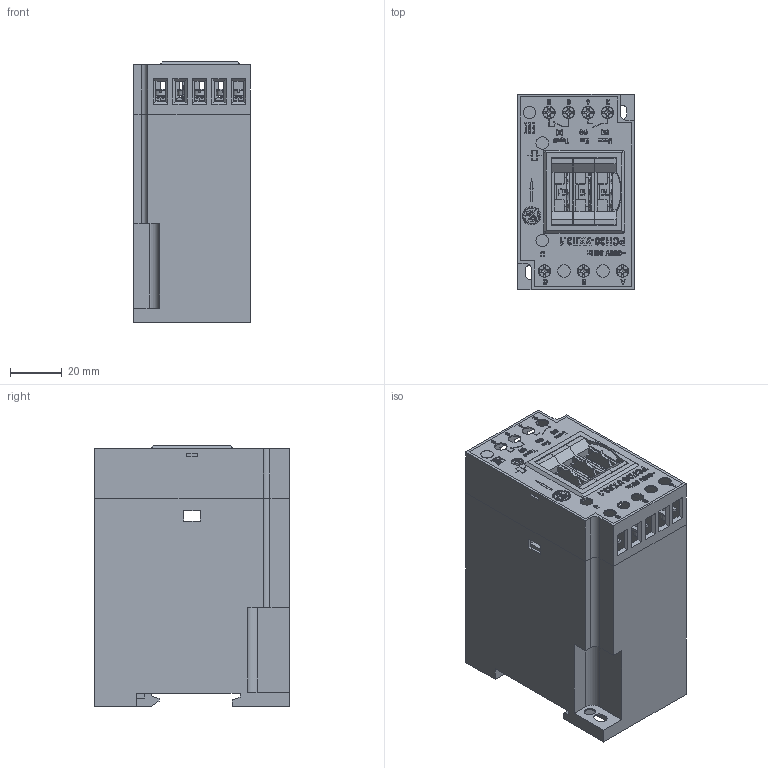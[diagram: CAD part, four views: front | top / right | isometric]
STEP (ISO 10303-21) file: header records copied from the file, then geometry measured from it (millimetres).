
FILE_DESCRIPTION(('STEP AP214'), '1');
FILE_NAME('ﾐﾑﾍ30 380ﾂ', '', ('UNSPECIFIED'), ('UNSPECIFIED'), 'ASCON STEP Converter 1.6', 'ASCON Math Kernel', '');
FILE_SCHEMA(('AUTOMOTIVE_DESIGN { 1 0 10303 214 3 1 1}'));
Length unit declared in the file: millimetre
Products named in the file (14): 襠窏.301612.; 襠窏.753512.139
Assembly tree (23 placements, depth 3):
  (unnamed)
    (unnamed)
    (unnamed)
    襠窏.301612.  x7
      (unnamed)
      (unnamed)
    (unnamed)
    (unnamed)
    襠窏.753512.139
    (unnamed)  x3
    (unnamed)  x3
    (unnamed)
    (unnamed)
    (unnamed)
Bounding box: 45 x 75 x 100.32 mm (x, y, z)
Volume: 32777.4 mm3; surface area: 64767.2 mm2
Topology: 38 solids, 38 shells, 3986 faces, 11004 edges, 7192 vertices
Faces by surface type: cylinder 2072, plane 1687, cone 112, bspline 78, torus 37
Full cylindrical faces by diameter (mm): 2.3 x7, 3 x7, 4.2 x2, 4.8 x12
Entity records: 136481 total; most frequent: CARTESIAN_POINT 22859, DIRECTION 19236, ORIENTED_EDGE 18156, EDGE_CURVE 9078, AXIS2_PLACEMENT_3D 7041, VERTEX_POINT 6040, LINE 5154, VECTOR 5154
